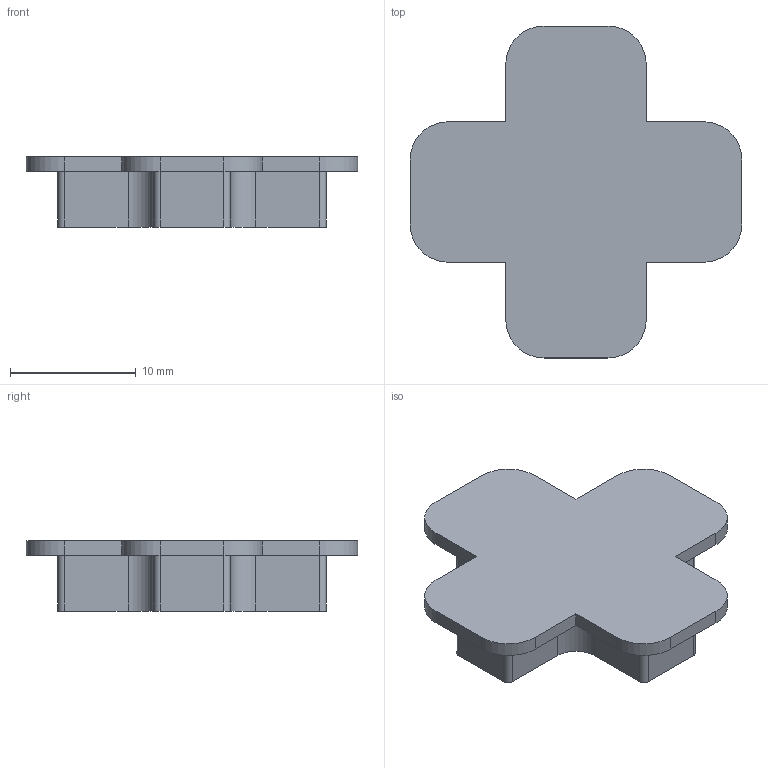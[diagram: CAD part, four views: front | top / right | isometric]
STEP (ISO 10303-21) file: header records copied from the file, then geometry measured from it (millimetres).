
FILE_DESCRIPTION (( 'STEP AP203' ), '1' );
FILE_NAME ('D-PAD.step', '2015-03-14T23:35:44', ( '' ), ( '' ), 'SwSTEP 2.0', 'SolidWorks 2013', '' );
FILE_SCHEMA (( 'CONFIG_CONTROL_DESIGN' ));
Length unit declared in the file: inch
Products named in the file (1): D-PAD
Bounding box: 26.42 x 26.42 x 5.59 mm (x, y, z)
Volume: 1518.8 mm3; surface area: 1364.1 mm2
Topology: 1 solids, 1 shells, 47 faces, 132 edges, 88 vertices
Faces by surface type: plane 27, cylinder 20
Entity records: 1605 total; most frequent: DIRECTION 268, CARTESIAN_POINT 268, ORIENTED_EDGE 264, EDGE_CURVE 132, VECTOR 92, LINE 92, VERTEX_POINT 88, AXIS2_PLACEMENT_3D 88
